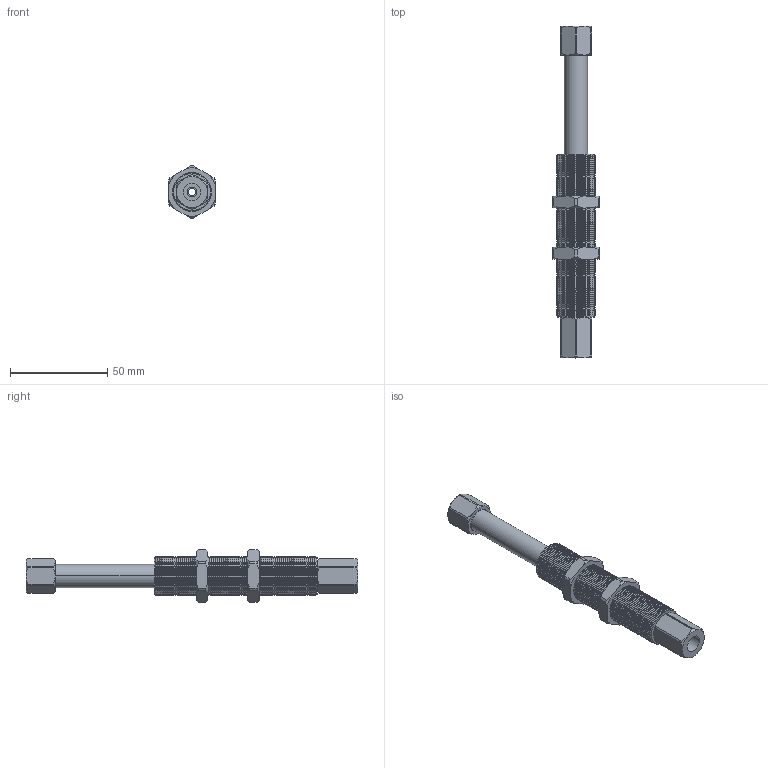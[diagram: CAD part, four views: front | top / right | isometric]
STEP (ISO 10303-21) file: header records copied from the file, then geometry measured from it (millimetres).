
FILE_DESCRIPTION (( 'STEP AP214' ), '1' );
FILE_NAME ('VFRT2051-G18.STEP', '2019-11-15T06:42:10', ( '微软用户' ), ( '微软中国' ), 'SwSTEP 2.0', 'SolidWorks 2016', '' );
FILE_SCHEMA (( 'AUTOMOTIVE_DESIGN' ));
Length unit declared in the file: millimetre
Products named in the file (1): VFRT2051-G18
Bounding box: 24 x 171 x 27 mm (x, y, z)
Volume: 35741.2 mm3; surface area: 24418 mm2
Topology: 5 solids, 5 shells, 695 faces, 1595 edges, 916 vertices
Faces by surface type: cone 416, cylinder 235, plane 40, bspline 4
Entity records: 27815 total; most frequent: CARTESIAN_POINT 4083, DIRECTION 3715, ORIENTED_EDGE 3190, EDGE_CURVE 1595, AXIS2_PLACEMENT_3D 1532, VERTEX_POINT 916, CIRCLE 840, EDGE_LOOP 711
